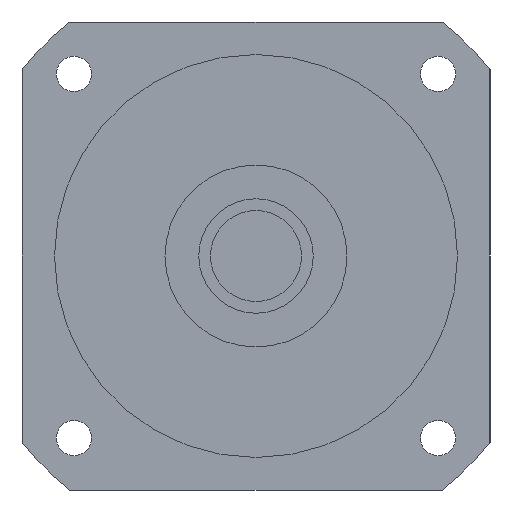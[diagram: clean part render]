
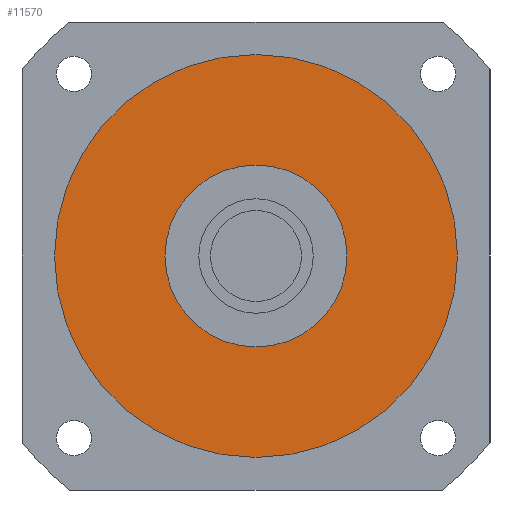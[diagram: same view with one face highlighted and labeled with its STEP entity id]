
A CAD part, left-side view. The second image highlights one B-rep face of the part: STEP entity #11570.
In plain terms, the highlighted planar face has unit normal (-1, 0, 0) as drawn and (0, 0, -1) by its records, which use the part's own axes.
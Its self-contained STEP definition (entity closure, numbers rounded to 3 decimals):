
#11010=CARTESIAN_POINT('',(-35.,0.,-84.7));
#11020=VERTEX_POINT('',#11010);
#11050=CARTESIAN_POINT('',(0.,0.,
-84.7));
#11060=DIRECTION('',(0.,0.,1.));
#11070=DIRECTION('',(0.,1.,0.));
#11080=AXIS2_PLACEMENT_3D('',#11050,#11060,#11070);
#11090=CIRCLE('',#11080,35.);
#11100=CARTESIAN_POINT('',(35.,0.,-84.7));
#11110=VERTEX_POINT('',#11100);
#11120=EDGE_CURVE('',#11020,#11110,#11090,.T.);
#11240=CARTESIAN_POINT('',(0.,0.,
-84.7));
#11250=DIRECTION('',(0.,0.,1.));
#11260=DIRECTION('',(-1.,0.,0.));
#11270=AXIS2_PLACEMENT_3D('',#11240,#11250,#11260);
#11280=PLANE('',#11270);
#11290=CARTESIAN_POINT('',(0.,0.,
-84.7));
#11300=DIRECTION('',(0.,0.,1.));
#11310=DIRECTION('',(0.,1.,0.));
#11320=AXIS2_PLACEMENT_3D('',#11290,#11300,#11310);
#11330=CIRCLE('',#11320,77.5);
#11340=CARTESIAN_POINT('',(0.,77.5,-84.7));
#11350=VERTEX_POINT('',#11340);
#11360=CARTESIAN_POINT('',(-77.5,0.,-84.7));
#11370=VERTEX_POINT('',#11360);
#11380=EDGE_CURVE('',#11350,#11370,#11330,.T.);
#11390=ORIENTED_EDGE('',*,*,#11380,.F.);
#11400=CARTESIAN_POINT('',(77.5,0.,-84.7));
#11410=VERTEX_POINT('',#11400);
#11420=EDGE_CURVE('',#11370,#11410,#11330,.T.);
#11430=ORIENTED_EDGE('',*,*,#11420,.F.);
#11440=EDGE_CURVE('',#11410,#11350,#11330,.T.);
#11450=ORIENTED_EDGE('',*,*,#11440,.F.);
#11460=EDGE_LOOP('',(#11450,#11430,#11390));
#11470=FACE_OUTER_BOUND('',#11460,.T.);
#11480=ORIENTED_EDGE('',*,*,#11120,.T.);
#11490=CARTESIAN_POINT('',(0.,35.,-84.7));
#11500=VERTEX_POINT('',#11490);
#11510=EDGE_CURVE('',#11500,#11020,#11090,.T.);
#11520=ORIENTED_EDGE('',*,*,#11510,.T.);
#11530=EDGE_CURVE('',#11110,#11500,#11090,.T.);
#11540=ORIENTED_EDGE('',*,*,#11530,.T.);
#11550=EDGE_LOOP('',(#11540,#11520,#11480));
#11560=FACE_BOUND('',#11550,.T.);
#11570=ADVANCED_FACE('',(#11470,#11560),#11280,.F.);
